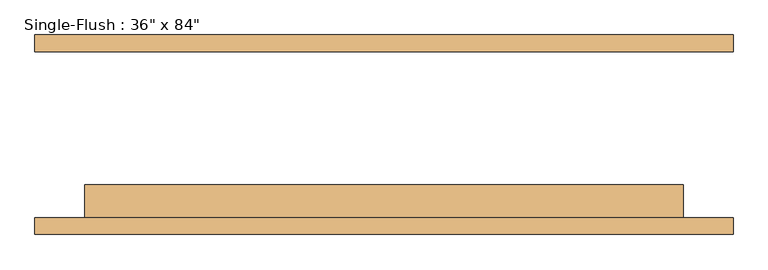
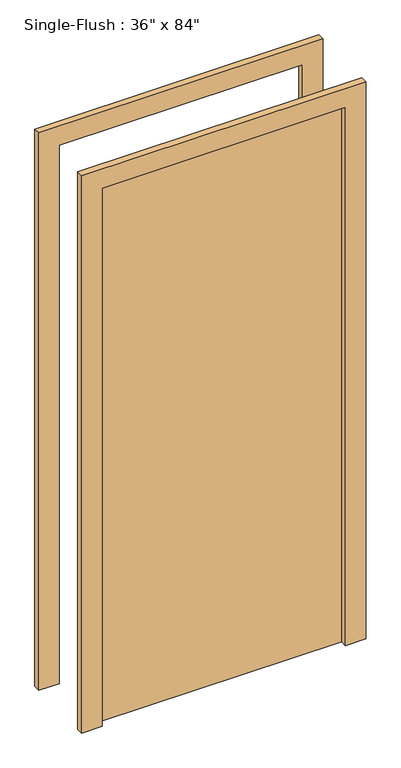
"""IFC4 building model written with IfcOpenShell, lengths in millimetres: door geometry."""

from ifc_helpers import new_model, si_unit, frame, origin, origin_with_axes, place, context, project, spatial, polyline, outline, extrude, source, transform, mapped, element, save


def door_9d8f1ff2(model_context):
    return source(origin(), model_context, "Body", "SweptSolid", [
        extrude(outline(polyline([(2209.8, -533.4), (0.0, -533.4), (0.0, -457.2), (2133.6, -457.2), (2133.6, 457.2), (0.0, 457.2), (0.0, 533.4), (2209.8, 533.4), (2209.8, -533.4)])), frame((0.0, -152.4, 0.0), z_axis=(0.0, 1.0, 0.0), x_axis=(0.0, 0.0, 1.0)), (0.0, 0.0, 1.0), 25.4),
        extrude(outline(polyline([(2209.8, 533.4), (2209.8, -533.4), (0.0, -533.4), (0.0, -457.2), (2133.6, -457.2), (2133.6, 457.2), (0.0, 457.2), (0.0, 533.4), (2209.8, 533.4)])), frame((0.0, 127.0, 0.0), z_axis=(0.0, 1.0, 0.0), x_axis=(0.0, 0.0, 1.0)), (0.0, 0.0, 1.0), 25.4),
        extrude(outline(polyline([(457.2, -76.2), (457.2, -127.0), (-457.2, -127.0), (-457.2, -76.2), (457.2, -76.2)])), origin_with_axes(), (0.0, 0.0, 1.0), 2133.6),
    ])


if __name__ == "__main__":
    model = new_model("IFC4")
    model_context = context("Model", 3, world=origin())
    ifc_project = project(units=[si_unit("LENGTHUNIT", "METRE", prefix="MILLI")], contexts=[model_context])
    site = spatial("IfcSite", under=ifc_project)
    building = spatial("IfcBuilding", under=site)
    placement = place(None, origin())
    door_shape = door_9d8f1ff2(model_context)
    element("IfcDoor", 1, ObjectType="Single-Flush : 36\" x 84\"", at=placement, inside=building, context=model_context, shape_type="MappedRepresentation", body=[
        mapped(door_shape, transform((0.0, 0.0, 0.0), x_axis=(1.0, 0.0, 0.0), y_axis=(0.0, 1.0, 0.0), z_axis=(0.0, 0.0, 1.0))),
    ])
    save(model, "model.ifc")
